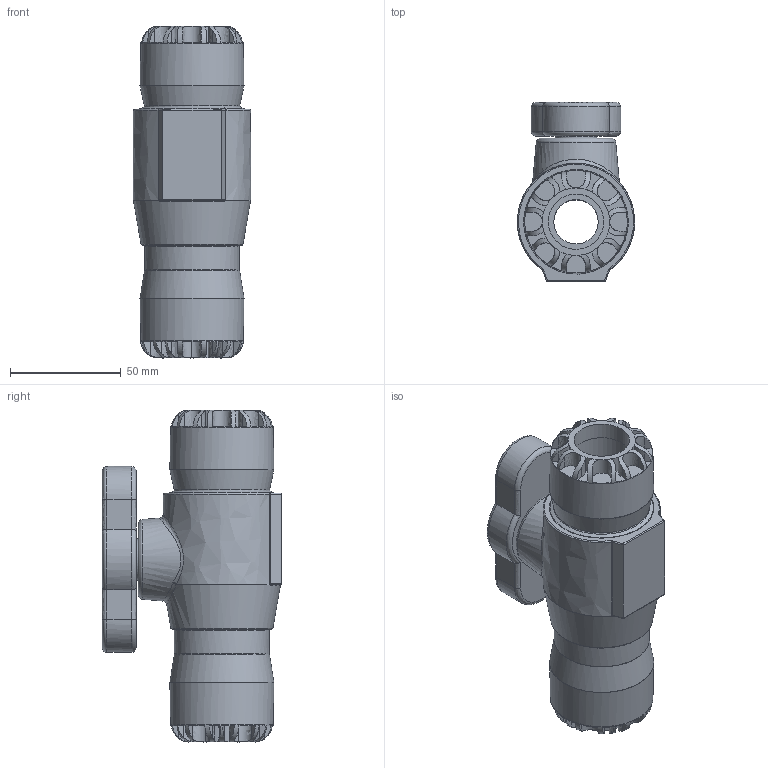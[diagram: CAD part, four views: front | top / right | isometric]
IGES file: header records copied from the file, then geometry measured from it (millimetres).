
Global section: file name: 03710S00025_03710SF0025; native system: Autodesk Inventor 2019; preprocessor: unknown; author: Lenora; date: 20220418.161934; units: millimetre
Bounding box: 53 x 81 x 150 mm (x, y, z)
Volume: 263446.7 mm3; surface area: 48135.5 mm2
Topology: 1 solids, 1 shells, 273 faces, 720 edges, 457 vertices
Faces by surface type: bspline 273
